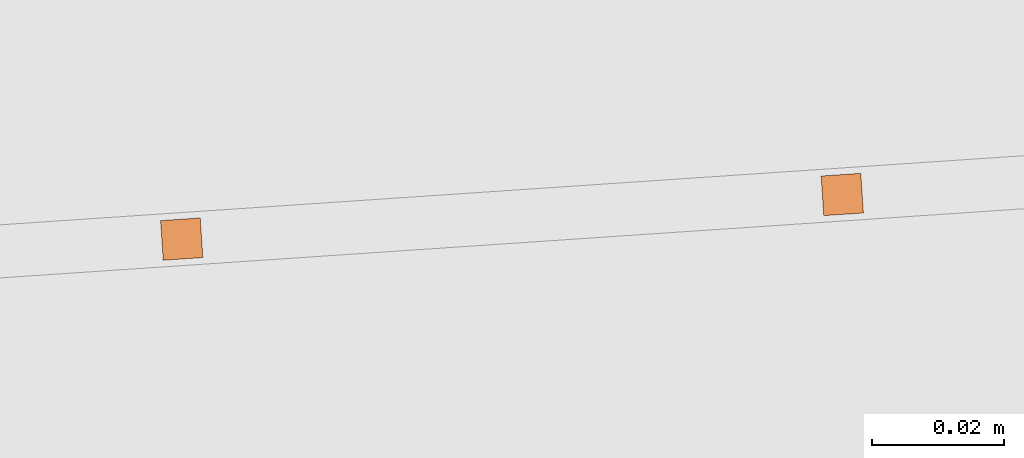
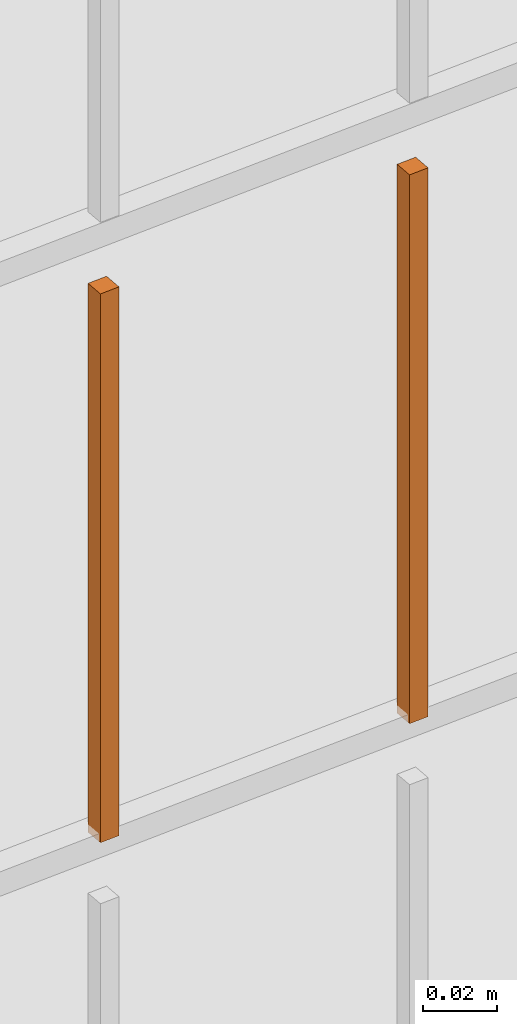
# One storey, part 144 of 1809: 2 proxies, 1 element without a shape of its own.
"""IFC2X3 building model written with IfcOpenShell, lengths in millimetres."""

from ifc_helpers import new_model, entity, si_unit, converted_unit, derived_unit, money_unit, direction, frame, origin_with_axes, place, context, subcontext, project, spatial, faceted_brep, source, transform, mapped, material, type_object, element, aggregate, save


model = new_model("IFC2X3")

# Units and contexts
model_context = context("Model", 3, precision=0.01, world=origin_with_axes(), true_north=direction((0.0, 1.0)))
body_context = subcontext(model_context, "Body", "Model", "MODEL_VIEW")
ifc_project = project(units=[si_unit("LENGTHUNIT", "METRE", prefix="MILLI"), si_unit("AREAUNIT", "SQUARE_METRE"), si_unit("VOLUMEUNIT", "CUBIC_METRE"), converted_unit("PLANEANGLEUNIT", "DEGREE", entity("IfcPlaneAngleMeasure", 0.0174532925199), si_unit("PLANEANGLEUNIT", "RADIAN"), dimensions=[0, 0, 0, 0, 0, 0, 0]), si_unit("SOLIDANGLEUNIT", "STERADIAN"), money_unit("EUR"), converted_unit("TIMEUNIT", "Year", entity("IfcTimeMeasure", 31556926.0), si_unit("TIMEUNIT", "SECOND"), dimensions=[0, 0, 1, 0, 0, 0, 0]), si_unit("MASSUNIT", "GRAM", prefix="KILO"), si_unit("THERMODYNAMICTEMPERATUREUNIT", "DEGREE_CELSIUS"), si_unit("LUMINOUSINTENSITYUNIT", "LUMEN"), si_unit("ENERGYUNIT", "JOULE", prefix="MEGA"), derived_unit("THERMALCONDUCTANCEUNIT", [(si_unit("POWERUNIT", "WATT"), 1), (si_unit("LENGTHUNIT", "METRE"), -1), (si_unit("THERMODYNAMICTEMPERATUREUNIT", "KELVIN"), -1)]), derived_unit("SPECIFICHEATCAPACITYUNIT", [(si_unit("ENERGYUNIT", "JOULE"), 1), (si_unit("MASSUNIT", "GRAM", prefix="KILO"), -1), (si_unit("THERMODYNAMICTEMPERATUREUNIT", "KELVIN"), -1)]), derived_unit("MASSDENSITYUNIT", [(si_unit("MASSUNIT", "GRAM", prefix="KILO"), 1), (si_unit("VOLUMEUNIT", "CUBIC_METRE"), -1)])], contexts=[model_context])

# Site, building, storey
site_placement = place(None, origin_with_axes())
site = spatial("IfcSite", under=ifc_project, at=site_placement, Name="Politse- ja Piirivalveameti ning Päästeameti ühishoone", CompositionType="ELEMENT")
building_placement = place(site_placement, origin_with_axes())
building = spatial("IfcBuilding", under=site, at=building_placement, Name="Politse- ja Piirivalveameti ning Päästeameti ühishoone", CompositionType="ELEMENT")
storey_placement = place(building_placement, origin_with_axes())
storey = spatial("IfcBuildingStorey", under=building, at=storey_placement, Name="Esimene korrus", CompositionType="ELEMENT", Elevation=0.0)

# Proxies
building_element_proxy_type_1 = type_object("IfcBuildingElementProxyType", Name="Railing Type", PredefinedType="NOTDEFINED")
proxy_1_placement = place(storey_placement, frame((89252.001212, -29183.4766571, 203.661247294), z_axis=(0.0, 0.0, 1.0), x_axis=(1.0, 0.0, 0.0)))
proxy_1 = element("IfcBuildingElementProxy", 1, at=proxy_1_placement, inside=storey, type_object=building_element_proxy_type_1, Name="PIIRDEAED")
ifc_material = material(Name="ET-03_Raud")
building_element_proxy_type_2 = type_object("IfcBuildingElementProxyType", Name="IfcBuildingElementProxy", PredefinedType="NOTDEFINED")
shared_shape_1 = source(origin_with_axes(), body_context, "Body", "Brep", [
    faceted_brep([(3.0, 3.0, -0.000752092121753), (-3.0, 3.0, -0.000752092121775), (-3.0, 3.0, 179.99926046), (3.0, 3.0, 179.99926046), (3.0, -3.0, 0.000752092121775), (-3.0, -3.0, 0.000752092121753), (-3.0, -3.0, 180.000764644), (3.0, -3.0, 180.000764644)], [[[0, 1, 2, 3]], [[0, 4, 5, 1]], [[1, 5, 6, 2]], [[3, 2, 6, 7]], [[4, 0, 3, 7]], [[5, 4, 7, 6]]]),
])
proxy_2_placement = place(proxy_1_placement, frame((-86130.4268543, -23115.5600511, 1805.59251154), z_axis=(0.0, 0.0, 1.0), x_axis=(1.0, 0.0, 0.0)))
proxy_2 = element("IfcBuildingElementProxy", 2, at=proxy_2_placement, type_object=building_element_proxy_type_2, material=ifc_material, Name="BALUSTER - 001", context=body_context, shape_type="MappedRepresentation", body=[
    mapped(shared_shape_1, transform((0.0, 0.0, 0.0), x_axis=(-0.0673926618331, 0.997726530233, 0.0), y_axis=(-0.997726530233, -0.0673926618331, 0.0), z_axis=(0.0, 0.0, 1.0))),
])
shared_shape_2 = source(origin_with_axes(), body_context, "Body", "Brep", [
    faceted_brep([(3.0, 3.0, -0.000752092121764), (-3.0, 3.0, -0.000752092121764), (-3.0, 3.0, 179.99926046), (3.0, 3.0, 179.99926046), (3.0, -3.0, 0.000752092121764), (-3.0, -3.0, 0.000752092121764), (-3.0, -3.0, 180.000764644), (3.0, -3.0, 180.000764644)], [[[0, 1, 2, 3]], [[0, 4, 5, 1]], [[1, 5, 6, 2]], [[3, 2, 6, 7]], [[4, 0, 3, 7]], [[5, 4, 7, 6]]]),
])
proxy_3_placement = place(proxy_1_placement, frame((-86030.6542013, -23108.8207849, 1805.61758127), z_axis=(0.0, 0.0, 1.0), x_axis=(1.0, 0.0, 0.0)))
proxy_3 = element("IfcBuildingElementProxy", 3, at=proxy_3_placement, type_object=building_element_proxy_type_2, material=ifc_material, Name="BALUSTER - 001", context=body_context, shape_type="MappedRepresentation", body=[
    mapped(shared_shape_2, transform((0.0, 0.0, 0.0), x_axis=(-0.0673926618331, 0.997726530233, 0.0), y_axis=(-0.997726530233, -0.0673926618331, 0.0), z_axis=(0.0, 0.0, 1.0))),
])
aggregate(proxy_1, [proxy_3, proxy_2])

save(model, "model.ifc")
